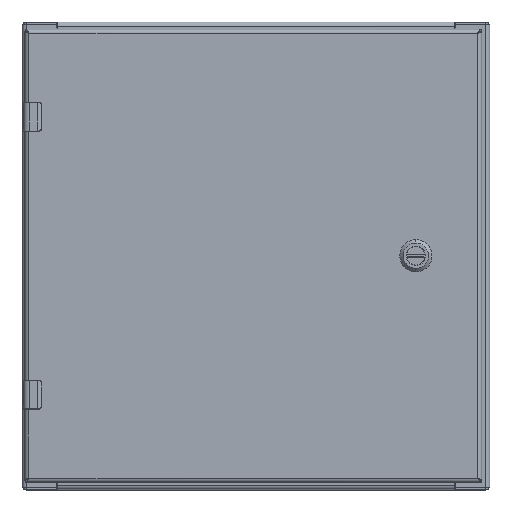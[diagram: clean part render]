
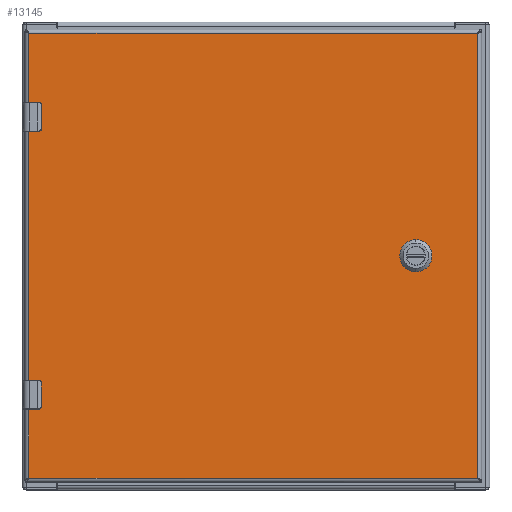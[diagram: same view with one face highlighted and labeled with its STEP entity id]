
A CAD part, top view. The second image highlights one B-rep face of the part: STEP entity #13145.
In plain terms, the highlighted planar face has unit normal (0, 0, 1).
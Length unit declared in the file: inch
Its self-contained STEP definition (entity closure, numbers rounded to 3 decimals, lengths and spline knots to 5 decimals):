
#10364=CARTESIAN_POINT('',(5.5625,0.,0.));
#10365=DIRECTION('',(0.,0.,1.));
#10366=DIRECTION('',(-0.448,0.894,0.));
#10367=AXIS2_PLACEMENT_3D('',#10364,#10365,#10366);
#10372=DIRECTION('',(0.,-1.,0.));
#10373=VECTOR('',#10372,0.39715);
#10374=CARTESIAN_POINT('',(5.1665,0.19858,0.));
#10375=LINE('',#10374,#10373);
#10379=CARTESIAN_POINT('',(5.5625,0.,0.));
#10380=DIRECTION('',(0.,0.,1.));
#10381=DIRECTION('',(-0.894,-0.448,0.));
#10382=AXIS2_PLACEMENT_3D('',#10379,#10380,#10381);
#10387=DIRECTION('',(1.,0.,0.));
#10388=VECTOR('',#10387,0.39715);
#10389=CARTESIAN_POINT('',(5.36392,-0.396,0.));
#10390=LINE('',#10389,#10388);
#10394=CARTESIAN_POINT('',(5.5625,0.,0.));
#10395=DIRECTION('',(0.,0.,1.));
#10396=DIRECTION('',(0.448,-0.894,0.));
#10397=AXIS2_PLACEMENT_3D('',#10394,#10395,#10396);
#10402=DIRECTION('',(0.,1.,0.));
#10403=VECTOR('',#10402,0.39715);
#10404=CARTESIAN_POINT('',(5.9585,-0.19858,0.));
#10405=LINE('',#10404,#10403);
#10409=CARTESIAN_POINT('',(5.5625,0.,0.));
#10410=DIRECTION('',(0.,0.,1.));
#10411=DIRECTION('',(0.894,0.448,0.));
#10412=AXIS2_PLACEMENT_3D('',#10409,#10410,#10411);
#10417=DIRECTION('',(-1.,0.,0.));
#10418=VECTOR('',#10417,0.39715);
#10419=CARTESIAN_POINT('',(5.76108,0.396,0.));
#10420=LINE('',#10419,#10418);
#10424=DIRECTION('',(1.,0.,0.));
#10425=VECTOR('',#10424,0.34892);
#10426=CARTESIAN_POINT('',(-7.6775,-5.095,0.));
#10427=LINE('',#10426,#10425);
#10431=DIRECTION('',(0.,1.,0.));
#10432=VECTOR('',#10431,0.63);
#10433=CARTESIAN_POINT('',(-7.29858,-5.065,0.));
#10434=LINE('',#10433,#10432);
#10438=DIRECTION('',(1.,0.,0.));
#10439=VECTOR('',#10438,0.34892);
#10440=CARTESIAN_POINT('',(-7.6775,-4.405,0.));
#10441=LINE('',#10440,#10439);
#10445=DIRECTION('',(1.,0.,0.));
#10446=VECTOR('',#10445,0.34892);
#10447=CARTESIAN_POINT('',(-7.6775,4.405,0.));
#10448=LINE('',#10447,#10446);
#10452=DIRECTION('',(0.,1.,0.));
#10453=VECTOR('',#10452,0.63);
#10454=CARTESIAN_POINT('',(-7.29858,4.435,0.));
#10455=LINE('',#10454,#10453);
#10459=DIRECTION('',(1.,0.,0.));
#10460=VECTOR('',#10459,0.34892);
#10461=CARTESIAN_POINT('',(-7.6775,5.095,0.));
#10462=LINE('',#10461,#10460);
#10921=CARTESIAN_POINT('',(-7.32858,-4.435,0.));
#10922=DIRECTION('',(0.,0.,-1.));
#10923=DIRECTION('',(0.,1.,0.));
#10924=AXIS2_PLACEMENT_3D('',#10921,#10922,#10923);
#10951=CARTESIAN_POINT('',(-7.32858,-5.065,0.));
#10952=DIRECTION('',(0.,0.,-1.));
#10953=DIRECTION('',(1.,0.,0.));
#10954=AXIS2_PLACEMENT_3D('',#10951,#10952,#10953);
#11004=DIRECTION('',(0.,1.,0.));
#11005=VECTOR('',#11004,8.81);
#11006=CARTESIAN_POINT('',(-7.6775,-4.405,0.));
#11007=LINE('',#11006,#11005);
#11033=DIRECTION('',(0.,1.,0.));
#11034=VECTOR('',#11033,2.52);
#11035=CARTESIAN_POINT('',(-7.6775,5.095,0.));
#11036=LINE('',#11035,#11034);
#11092=DIRECTION('',(0.,1.,0.));
#11093=VECTOR('',#11092,2.52);
#11094=CARTESIAN_POINT('',(-7.6775,-7.615,0.));
#11095=LINE('',#11094,#11093);
#11755=CARTESIAN_POINT('',(-7.32858,4.435,0.));
#11756=DIRECTION('',(0.,0.,-1.));
#11757=DIRECTION('',(1.,0.,0.));
#11758=AXIS2_PLACEMENT_3D('',#11755,#11756,#11757);
#11785=CARTESIAN_POINT('',(-7.32858,5.065,0.));
#11786=DIRECTION('',(0.,0.,-1.));
#11787=DIRECTION('',(0.,1.,0.));
#11788=AXIS2_PLACEMENT_3D('',#11785,#11786,#11787);
#12449=DIRECTION('',(-1.,0.,0.));
#12450=VECTOR('',#12449,15.355);
#12451=CARTESIAN_POINT('',(7.6775,-7.615,0.));
#12452=LINE('',#12451,#12450);
#12505=DIRECTION('',(0.,-1.,0.));
#12506=VECTOR('',#12505,15.23);
#12507=CARTESIAN_POINT('',(7.6775,7.615,0.));
#12508=LINE('',#12507,#12506);
#12650=DIRECTION('',(1.,0.,0.));
#12651=VECTOR('',#12650,15.355);
#12652=CARTESIAN_POINT('',(-7.6775,7.615,0.));
#12653=LINE('',#12652,#12651);
#12720=CARTESIAN_POINT('',(7.6775,7.615,0.));
#12721=CARTESIAN_POINT('',(7.6775,-7.615,0.));
#12722=VERTEX_POINT('',#12720);
#12723=VERTEX_POINT('',#12721);
#12808=CARTESIAN_POINT('',(5.36392,0.396,0.));
#12809=CARTESIAN_POINT('',(5.1665,0.19858,0.));
#12810=VERTEX_POINT('',#12808);
#12811=VERTEX_POINT('',#12809);
#12812=CARTESIAN_POINT('',(5.1665,-0.19858,0.));
#12813=VERTEX_POINT('',#12812);
#12814=CARTESIAN_POINT('',(5.36392,-0.396,0.));
#12815=VERTEX_POINT('',#12814);
#12816=CARTESIAN_POINT('',(5.76108,-0.396,0.));
#12817=VERTEX_POINT('',#12816);
#12818=CARTESIAN_POINT('',(5.9585,-0.19858,0.));
#12819=VERTEX_POINT('',#12818);
#12820=CARTESIAN_POINT('',(5.9585,0.19858,0.));
#12821=VERTEX_POINT('',#12820);
#12822=CARTESIAN_POINT('',(5.76108,0.396,0.));
#12823=VERTEX_POINT('',#12822);
#12913=CARTESIAN_POINT('',(-7.6775,7.615,0.));
#12915=VERTEX_POINT('',#12913);
#12920=CARTESIAN_POINT('',(-7.6775,-7.615,0.));
#12922=VERTEX_POINT('',#12920);
#12992=CARTESIAN_POINT('',(-7.6775,4.405,0.));
#12994=VERTEX_POINT('',#12992);
#12996=CARTESIAN_POINT('',(-7.6775,5.095,0.));
#12998=VERTEX_POINT('',#12996);
#13008=CARTESIAN_POINT('',(-7.6775,-5.095,0.));
#13010=VERTEX_POINT('',#13008);
#13012=CARTESIAN_POINT('',(-7.6775,-4.405,0.));
#13014=VERTEX_POINT('',#13012);
#13024=CARTESIAN_POINT('',(-7.32858,5.095,0.));
#13026=VERTEX_POINT('',#13024);
#13028=CARTESIAN_POINT('',(-7.29858,5.065,0.));
#13030=VERTEX_POINT('',#13028);
#13032=CARTESIAN_POINT('',(-7.29858,4.435,0.));
#13034=VERTEX_POINT('',#13032);
#13036=CARTESIAN_POINT('',(-7.32858,4.405,0.));
#13038=VERTEX_POINT('',#13036);
#13056=CARTESIAN_POINT('',(-7.32858,-4.405,0.));
#13058=VERTEX_POINT('',#13056);
#13060=CARTESIAN_POINT('',(-7.29858,-4.435,0.));
#13062=VERTEX_POINT('',#13060);
#13064=CARTESIAN_POINT('',(-7.29858,-5.065,0.));
#13066=VERTEX_POINT('',#13064);
#13068=CARTESIAN_POINT('',(-7.32858,-5.095,0.));
#13070=VERTEX_POINT('',#13068);
#13088=CARTESIAN_POINT('',(0.,0.,0.));
#13089=DIRECTION('',(0.,0.,-1.));
#13090=DIRECTION('',(1.,0.,0.));
#13091=AXIS2_PLACEMENT_3D('',#13088,#13089,#13090);
#13092=PLANE('',#13091);
#13094=ORIENTED_EDGE('',*,*,#13093,.T.);
#13096=ORIENTED_EDGE('',*,*,#13095,.T.);
#13098=ORIENTED_EDGE('',*,*,#13097,.T.);
#13100=ORIENTED_EDGE('',*,*,#13099,.F.);
#13102=ORIENTED_EDGE('',*,*,#13101,.T.);
#13104=ORIENTED_EDGE('',*,*,#13103,.F.);
#13106=ORIENTED_EDGE('',*,*,#13105,.F.);
#13108=ORIENTED_EDGE('',*,*,#13107,.T.);
#13110=ORIENTED_EDGE('',*,*,#13109,.T.);
#13112=ORIENTED_EDGE('',*,*,#13111,.F.);
#13114=ORIENTED_EDGE('',*,*,#13113,.T.);
#13116=ORIENTED_EDGE('',*,*,#13115,.F.);
#13118=ORIENTED_EDGE('',*,*,#13117,.F.);
#13120=ORIENTED_EDGE('',*,*,#13119,.T.);
#13122=ORIENTED_EDGE('',*,*,#13121,.T.);
#13124=ORIENTED_EDGE('',*,*,#13123,.T.);
#13125=EDGE_LOOP('',(#13094,#13096,#13098,#13100,#13102,#13104,#13106,#13108,
#13110,#13112,#13114,#13116,#13118,#13120,#13122,#13124));
#13126=FACE_OUTER_BOUND('',#13125,.F.);
#13128=ORIENTED_EDGE('',*,*,#13127,.T.);
#13130=ORIENTED_EDGE('',*,*,#13129,.T.);
#13132=ORIENTED_EDGE('',*,*,#13131,.T.);
#13134=ORIENTED_EDGE('',*,*,#13133,.T.);
#13136=ORIENTED_EDGE('',*,*,#13135,.T.);
#13138=ORIENTED_EDGE('',*,*,#13137,.T.);
#13140=ORIENTED_EDGE('',*,*,#13139,.T.);
#13142=ORIENTED_EDGE('',*,*,#13141,.T.);
#13143=EDGE_LOOP('',(#13128,#13130,#13132,#13134,#13136,#13138,#13140,#13142));
#13144=FACE_BOUND('',#13143,.F.);
#10368=CIRCLE('',#10367,0.443);
#10383=CIRCLE('',#10382,0.443);
#10398=CIRCLE('',#10397,0.443);
#10413=CIRCLE('',#10412,0.443);
#10925=CIRCLE('',#10924,0.03);
#10955=CIRCLE('',#10954,0.03);
#11759=CIRCLE('',#11758,0.03);
#11789=CIRCLE('',#11788,0.03);
#13093=EDGE_CURVE('',#12723,#12922,#12452,.T.);
#13095=EDGE_CURVE('',#12922,#13010,#11095,.T.);
#13097=EDGE_CURVE('',#13010,#13070,#10427,.T.);
#13099=EDGE_CURVE('',#13066,#13070,#10955,.T.);
#13101=EDGE_CURVE('',#13066,#13062,#10434,.T.);
#13103=EDGE_CURVE('',#13058,#13062,#10925,.T.);
#13105=EDGE_CURVE('',#13014,#13058,#10441,.T.);
#13107=EDGE_CURVE('',#13014,#12994,#11007,.T.);
#13109=EDGE_CURVE('',#12994,#13038,#10448,.T.);
#13111=EDGE_CURVE('',#13034,#13038,#11759,.T.);
#13113=EDGE_CURVE('',#13034,#13030,#10455,.T.);
#13115=EDGE_CURVE('',#13026,#13030,#11789,.T.);
#13117=EDGE_CURVE('',#12998,#13026,#10462,.T.);
#13119=EDGE_CURVE('',#12998,#12915,#11036,.T.);
#13121=EDGE_CURVE('',#12915,#12722,#12653,.T.);
#13123=EDGE_CURVE('',#12722,#12723,#12508,.T.);
#13127=EDGE_CURVE('',#12810,#12811,#10368,.T.);
#13129=EDGE_CURVE('',#12811,#12813,#10375,.T.);
#13131=EDGE_CURVE('',#12813,#12815,#10383,.T.);
#13133=EDGE_CURVE('',#12815,#12817,#10390,.T.);
#13135=EDGE_CURVE('',#12817,#12819,#10398,.T.);
#13137=EDGE_CURVE('',#12819,#12821,#10405,.T.);
#13139=EDGE_CURVE('',#12821,#12823,#10413,.T.);
#13141=EDGE_CURVE('',#12823,#12810,#10420,.T.);
#13145=ADVANCED_FACE('',(#13126,#13144),#13092,.F.);
